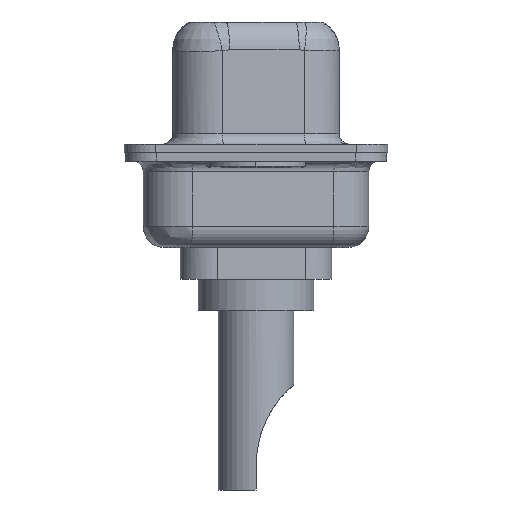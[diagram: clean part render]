
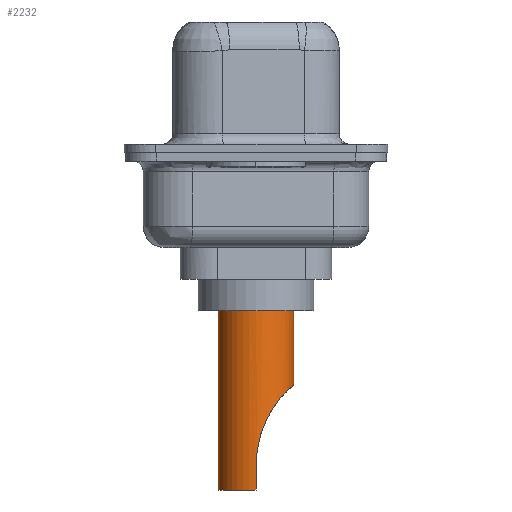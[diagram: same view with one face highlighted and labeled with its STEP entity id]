
A CAD part, left-side view. The second image highlights one B-rep face of the part: STEP entity #2232.
In plain terms, the highlighted cylindrical face has radius 1.8 mm (diameter 3.6 mm), a partial arc.
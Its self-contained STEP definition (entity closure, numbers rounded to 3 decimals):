
#13 = CARTESIAN_POINT ( 'NONE',  ( -3.43, -1.8, -3.4 ) ) ;
#143 = CIRCLE ( 'NONE', #5795, 1.8 ) ;
#433 = AXIS2_PLACEMENT_3D ( 'NONE', #641, #3286, #5614 ) ;
#583 = CARTESIAN_POINT ( 'NONE',  ( -4.257, -1.602, -7.074 ) ) ;
#641 = CARTESIAN_POINT ( 'NONE',  ( -3.43, 0., -3.4 ) ) ;
#654 = CARTESIAN_POINT ( 'NONE',  ( -5.23, 0., 10.99 ) ) ;
#715 = VECTOR ( 'NONE', #3747, 1000. ) ;
#1356 = EDGE_CURVE ( 'NONE', #10143, #2942, #8419, .T. ) ;
#1404 = EDGE_CURVE ( 'NONE', #1539, #2938, #3615, .T. ) ;
#1520 = CARTESIAN_POINT ( 'NONE',  ( -5.23, 0., -10.301 ) ) ;
#1539 = VERTEX_POINT ( 'NONE', #4272 ) ;
#1642 = LINE ( 'NONE', #654, #2078 ) ;
#1706 = CARTESIAN_POINT ( 'NONE',  ( -3.43, 0., 10.99 ) ) ;
#2078 = VECTOR ( 'NONE', #7403, 1000. ) ;
#2115 = VERTEX_POINT ( 'NONE', #2881 ) ;
#2232 = ADVANCED_FACE ( 'NONE', ( #10955 ), #2538, .T. ) ;
#2514 = CARTESIAN_POINT ( 'NONE',  ( -3.43, 0., -11.9 ) ) ;
#2538 = CYLINDRICAL_SURFACE ( 'NONE', #4106, 1.8 ) ;
#2728 = CARTESIAN_POINT ( 'NONE',  ( -5.23, 0., -10.742 ) ) ;
#2881 = CARTESIAN_POINT ( 'NONE',  ( -5.23, 0., -11.9 ) ) ;
#2938 = VERTEX_POINT ( 'NONE', #13 ) ;
#2942 = VERTEX_POINT ( 'NONE', #10079 ) ;
#2956 = CARTESIAN_POINT ( 'NONE',  ( -3.43, 1.8, 10.99 ) ) ;
#2997 = ORIENTED_EDGE ( 'NONE', *, *, #4336, .T. ) ;
#3013 = DIRECTION ( 'NONE',  ( 0., 0., -1. ) ) ;
#3064 = EDGE_LOOP ( 'NONE', ( #2997, #5558, #10183, #8925, #8284, #10920 ) ) ;
#3129 = CARTESIAN_POINT ( 'NONE',  ( -5.217, -0.227, -9.237 ) ) ;
#3233 = CARTESIAN_POINT ( 'NONE',  ( -5.171, -0.466, -8.623 ) ) ;
#3286 = DIRECTION ( 'NONE',  ( 0., 0., 1. ) ) ;
#3335 = CARTESIAN_POINT ( 'NONE',  ( -3.542, -1.8, -6.9 ) ) ;
#3615 = CIRCLE ( 'NONE', #433, 1.8 ) ;
#3694 = CARTESIAN_POINT ( 'NONE',  ( -3.43, -1.8, 10.99 ) ) ;
#3747 = DIRECTION ( 'NONE',  ( 0., 0., 1. ) ) ;
#4106 = AXIS2_PLACEMENT_3D ( 'NONE', #1706, #6954, #4409 ) ;
#4115 = CARTESIAN_POINT ( 'NONE',  ( -5.144, -0.562, -8.429 ) ) ;
#4272 = CARTESIAN_POINT ( 'NONE',  ( -3.43, 1.8, -3.4 ) ) ;
#4336 = EDGE_CURVE ( 'NONE', #2115, #10143, #1642, .T. ) ;
#4409 = DIRECTION ( 'NONE',  ( 1., 0., 0. ) ) ;
#4828 = EDGE_CURVE ( 'NONE', #6746, #2115, #143, .T. ) ;
#4838 = CARTESIAN_POINT ( 'NONE',  ( -5.058, -0.777, -8.056 ) ) ;
#5213 = DIRECTION ( 'NONE',  ( 0., 0., 1. ) ) ;
#5558 = ORIENTED_EDGE ( 'NONE', *, *, #1356, .T. ) ;
#5614 = DIRECTION ( 'NONE',  ( 1., 0., 0. ) ) ;
#5676 = CARTESIAN_POINT ( 'NONE',  ( -5.207, -0.298, -9.027 ) ) ;
#5795 = AXIS2_PLACEMENT_3D ( 'NONE', #2514, #5213, #8553 ) ;
#6341 = EDGE_CURVE ( 'NONE', #2942, #2938, #9782, .T. ) ;
#6457 = VECTOR ( 'NONE', #3013, 1000. ) ;
#6550 = CARTESIAN_POINT ( 'NONE',  ( -5.233, -0.057, -9.869 ) ) ;
#6746 = VERTEX_POINT ( 'NONE', #9564 ) ;
#6954 = DIRECTION ( 'NONE',  ( 0., 0., -1. ) ) ;
#7211 = EDGE_CURVE ( 'NONE', #1539, #6746, #9656, .T. ) ;
#7403 = DIRECTION ( 'NONE',  ( 0., 0., 1. ) ) ;
#7443 = CARTESIAN_POINT ( 'NONE',  ( -3.971, -1.72, -6.968 ) ) ;
#7493 = CARTESIAN_POINT ( 'NONE',  ( -3.651, -1.79, -6.908 ) ) ;
#7547 = CARTESIAN_POINT ( 'NONE',  ( -4.429, -1.501, -7.17 ) ) ;
#8174 = CARTESIAN_POINT ( 'NONE',  ( -4.507, -1.445, -7.225 ) ) ;
#8284 = ORIENTED_EDGE ( 'NONE', *, *, #7211, .T. ) ;
#8336 = CARTESIAN_POINT ( 'NONE',  ( -4.998, -0.897, -7.877 ) ) ;
#8419 = B_SPLINE_CURVE_WITH_KNOTS ( 'NONE', 3,
 ( #9832, #1520, #6550, #3129, #5676, #3233, #4115, #4838, #8336, #10719, #10823, #8174, #7547, #583, #10040, #7443, #9993, #7493, #3335, #9052 ),
 .UNSPECIFIED., .F., .F.,
 ( 4, 2, 2, 2, 2, 2, 2, 2, 2, 4 ),
 ( 0., 0.001, 0.002, 0.003, 0.003, 0.004, 0.004, 0.005, 0.005, 0.005 ),
 .UNSPECIFIED. ) ;
#8553 = DIRECTION ( 'NONE',  ( 1., 0., 0. ) ) ;
#8925 = ORIENTED_EDGE ( 'NONE', *, *, #1404, .F. ) ;
#9052 = CARTESIAN_POINT ( 'NONE',  ( -3.43, -1.8, -6.9 ) ) ;
#9564 = CARTESIAN_POINT ( 'NONE',  ( -3.43, 1.8, -11.9 ) ) ;
#9656 = LINE ( 'NONE', #2956, #6457 ) ;
#9782 = LINE ( 'NONE', #3694, #715 ) ;
#9832 = CARTESIAN_POINT ( 'NONE',  ( -5.23, 0., -10.742 ) ) ;
#9993 = CARTESIAN_POINT ( 'NONE',  ( -3.865, -1.75, -6.942 ) ) ;
#10040 = CARTESIAN_POINT ( 'NONE',  ( -4.166, -1.646, -7.033 ) ) ;
#10079 = CARTESIAN_POINT ( 'NONE',  ( -3.43, -1.8, -6.9 ) ) ;
#10143 = VERTEX_POINT ( 'NONE', #2728 ) ;
#10183 = ORIENTED_EDGE ( 'NONE', *, *, #6341, .T. ) ;
#10719 = CARTESIAN_POINT ( 'NONE',  ( -4.829, -1.142, -7.555 ) ) ;
#10823 = CARTESIAN_POINT ( 'NONE',  ( -4.718, -1.27, -7.408 ) ) ;
#10920 = ORIENTED_EDGE ( 'NONE', *, *, #4828, .T. ) ;
#10955 = FACE_OUTER_BOUND ( 'NONE', #3064, .T. ) ;
